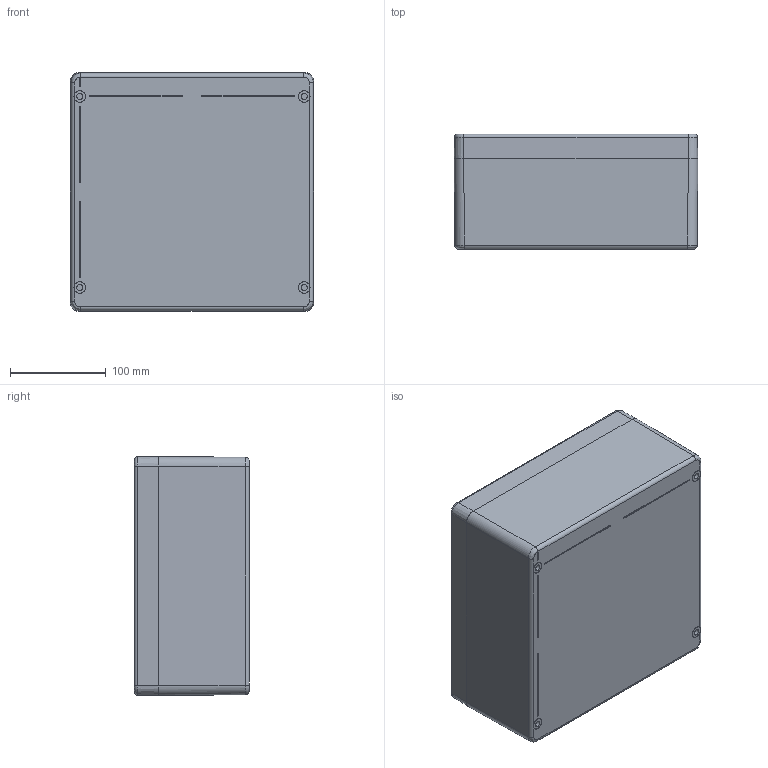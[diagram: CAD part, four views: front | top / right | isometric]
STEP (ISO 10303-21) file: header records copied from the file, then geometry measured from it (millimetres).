
FILE_DESCRIPTION((''),'2;1');
FILE_NAME('5370000000_ASM','2023-01-10T11:14:58',('silke.otte'),(''),'CREO PARAMETRIC BY PTC INC, 2022124','CREO PARAMETRIC BY PTC INC, 2022124','');
FILE_SCHEMA(('AUTOMOTIVE_DESIGN { 1 0 10303 214 1 1 1 1 }'));
Length unit declared in the file: millimetre
Products named in the file (10): 9331010000; 9502218000; 9502217000; 9341010000_ASM; 9342010000; CP-DICHTUNG_45; 9614005500_ASM; 9262006000; 9261027000; 5370000000_ASM
Assembly tree (23 placements, depth 3):
  5370000000_ASM
    9341010000_ASM
      9331010000
      9502218000  x6
      9502217000  x4
    9614005500_ASM
      9342010000
      CP-DICHTUNG_45
    9262006000  x4
    9261027000  x4
Bounding box: 255 x 120.5 x 250 mm (x, y, z)
Volume: 1501739.8 mm3; surface area: 514024.3 mm2
Topology: 21 solids, 35 shells, 2230 faces, 6056 edges, 3918 vertices
Faces by surface type: plane 1602, cone 412, cylinder 162, bspline 30, torus 24
Entity records: 37342 total; most frequent: CARTESIAN_POINT 7664, DIRECTION 4332, ORIENTED_EDGE 3848, EDGE_CURVE 1930, PRESENTATION_STYLE_ASSIGNMENT 1845, STYLED_ITEM 1837, CURVE_STYLE 1828, AXIS2_PLACEMENT_3D 1565
